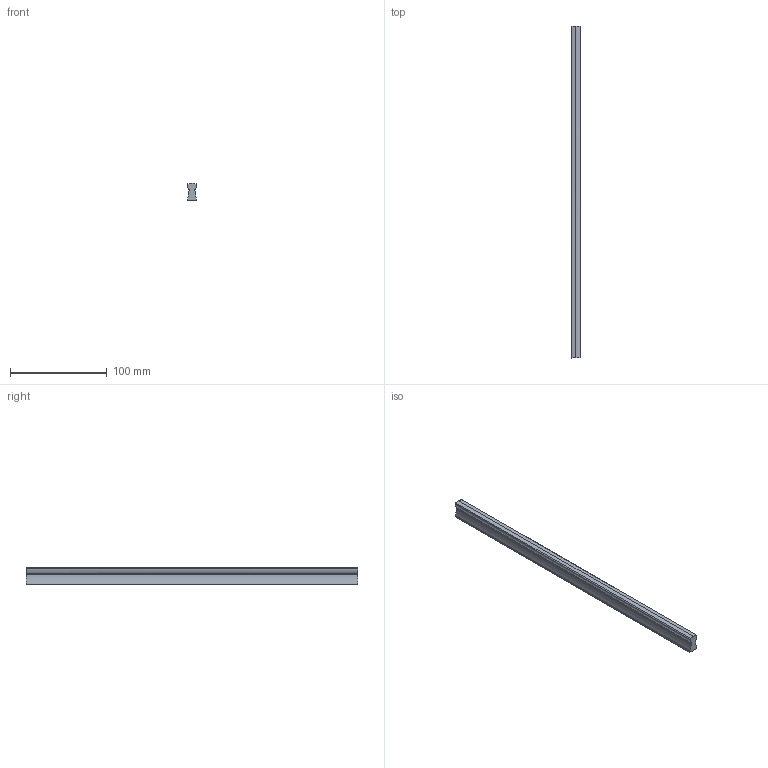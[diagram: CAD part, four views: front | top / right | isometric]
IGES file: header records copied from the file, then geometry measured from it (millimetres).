
Start section: C
Global section: file name: 8193-344.igs; native system: By Siemens PLM Incorporated; preprocessor: XPlus GENERIC/IGES 16.0.42; author: Author; organization: Title; date: 20231129.131726; units: millimetre
Bounding box: 10 x 344 x 18 mm (x, y, z)
Surface area: 19799.1 mm2 (no closed solid volume)
Topology: 0 solids, 0 shells, 23 faces, 120 edges, 120 vertices
Faces by surface type: bspline 23
